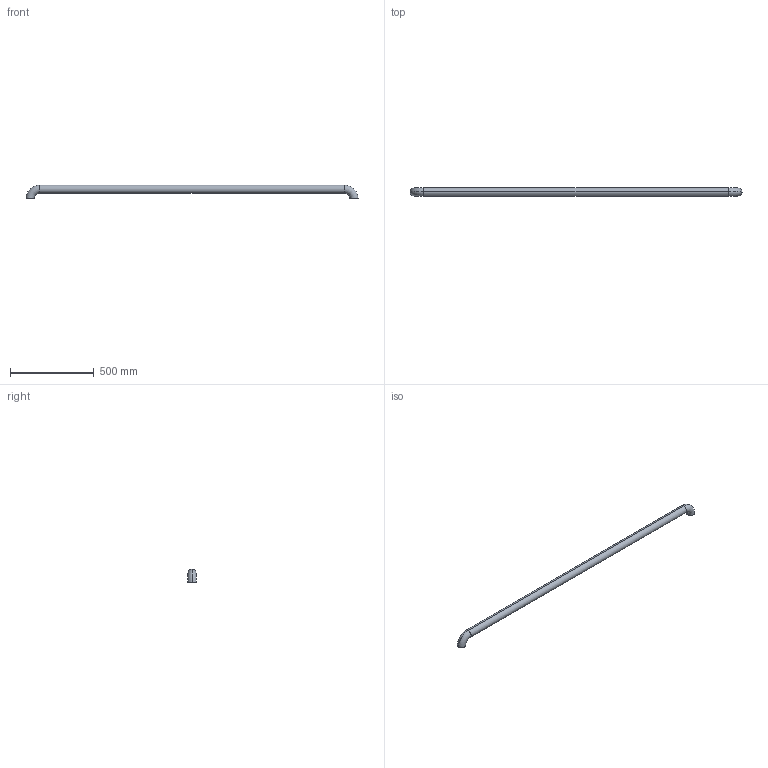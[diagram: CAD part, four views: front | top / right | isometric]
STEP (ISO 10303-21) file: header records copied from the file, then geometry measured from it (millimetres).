
FILE_DESCRIPTION (( 'STEP AP214' ), '1' );
FILE_NAME ('CCJ029-REP.349 - MAIN COURANTE GARDE CORPS COUPEE.STEP', '2025-10-30T15:28:34', ( '' ), ( '' ), 'SwSTEP 2.0', 'SolidWorks 2021', '' );
FILE_SCHEMA (( 'AUTOMOTIVE_DESIGN' ));
Length unit declared in the file: millimetre
Products named in the file (1): CCJ029-REP.349 - MAIN COURANTE GARDE CORPS COUPEE
Bounding box: 1980.3 x 48.3 x 81.15 mm (x, y, z)
Volume: 718371 mm3; surface area: 575416.3 mm2
Topology: 1 solids, 1 shells, 14 faces, 28 edges, 16 vertices
Faces by surface type: torus 8, cylinder 4, plane 2
Entity records: 410 total; most frequent: DIRECTION 82, CARTESIAN_POINT 59, ORIENTED_EDGE 56, AXIS2_PLACEMENT_3D 39, EDGE_CURVE 28, CIRCLE 24, EDGE_LOOP 16, VERTEX_POINT 16
